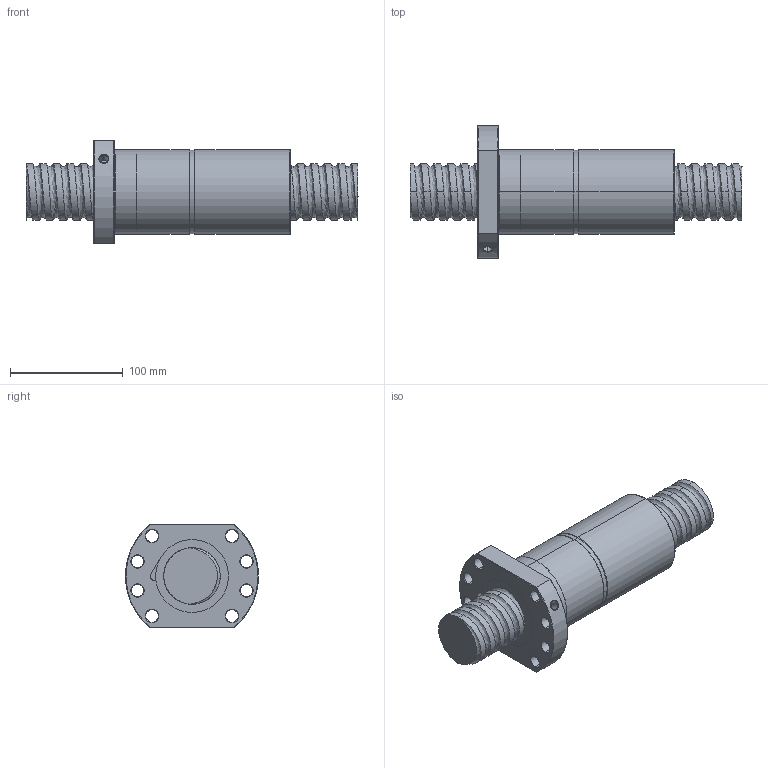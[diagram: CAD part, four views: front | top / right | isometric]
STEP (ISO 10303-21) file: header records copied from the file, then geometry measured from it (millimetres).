
FILE_DESCRIPTION (( 'STEP AP214' ), '1' );
FILE_NAME ('FDDC05012T5-F-C.STEP', '2010-07-07T01:36:59', ( 'XPAUTO' ), ( 'XPAUTO' ), 'SwSTEP 2.0', 'SolidWorks 2007', '' );
FILE_SCHEMA (( 'AUTOMOTIVE_DESIGN' ));
Length unit declared in the file: millimetre
Products named in the file (3): FDDC05012T5-F-C.sldasm-Part-1_預設; FDDC05012T5-F-C; FDDC05012T5-F-C.sldasm-Part-2_預設
Assembly tree (2 placements, depth 2):
  FDDC05012T5-F-C
    FDDC05012T5-F-C.sldasm-Part-1_預設
    FDDC05012T5-F-C.sldasm-Part-2_預設
Bounding box: 294 x 117.61 x 92 mm (x, y, z)
Volume: 1034655.9 mm3; surface area: 147692.3 mm2
Topology: 2 solids, 2 shells, 163 faces, 407 edges, 253 vertices
Faces by surface type: cylinder 94, cone 32, plane 22, torus 10, bspline 5
Entity records: 47342 total; most frequent: CARTESIAN_POINT 43499, ORIENTED_EDGE 814, DIRECTION 741, EDGE_CURVE 407, AXIS2_PLACEMENT_3D 299, VERTEX_POINT 253, EDGE_LOOP 188, FACE_OUTER_BOUND 163
